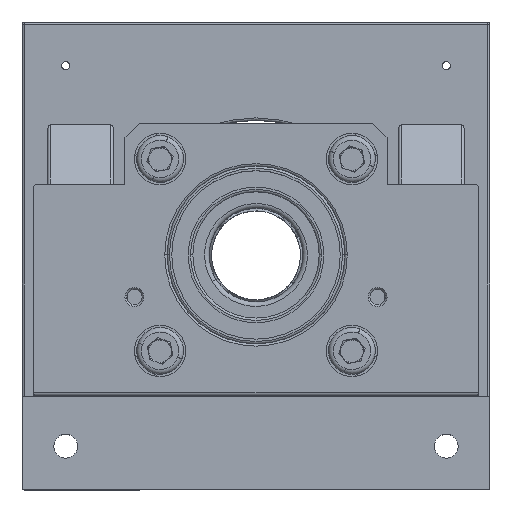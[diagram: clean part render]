
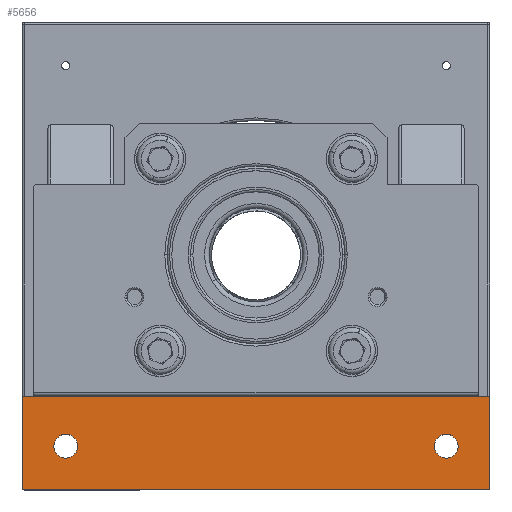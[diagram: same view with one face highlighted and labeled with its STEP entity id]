
A CAD part, top view. The second image highlights one B-rep face of the part: STEP entity #5656.
In plain terms, the highlighted planar face has unit normal (0, 0, 1).
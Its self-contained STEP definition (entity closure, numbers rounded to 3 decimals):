
#146 = LINE ( 'NONE', #9926, #9322 ) ;
#231 = FACE_BOUND ( 'NONE', #9651, .T. ) ;
#425 = DIRECTION ( 'NONE',  ( -1., 0., 0. ) ) ;
#438 = EDGE_CURVE ( 'NONE', #1073, #10733, #9137, .T. ) ;
#450 = CIRCLE ( 'NONE', #5494, 0.5 ) ;
#517 = LINE ( 'NONE', #6988, #7633 ) ;
#672 = DIRECTION ( 'NONE',  ( -1., 0., 0. ) ) ;
#749 = CARTESIAN_POINT ( 'NONE',  ( -43.209, -40.659, -115. ) ) ;
#849 = CIRCLE ( 'NONE', #5054, 0.5 ) ;
#959 = CARTESIAN_POINT ( 'NONE',  ( 50., -49.5, -115. ) ) ;
#1016 = CARTESIAN_POINT ( 'NONE',  ( -50., -49.5, -115. ) ) ;
#1073 = VERTEX_POINT ( 'NONE', #2430 ) ;
#1091 = ORIENTED_EDGE ( 'NONE', *, *, #3273, .F. ) ;
#1469 = DIRECTION ( 'NONE',  ( 0., 0., 1. ) ) ;
#2068 = VECTOR ( 'NONE', #9463, 1000. ) ;
#2427 = EDGE_CURVE ( 'NONE', #7229, #5574, #517, .T. ) ;
#2430 = CARTESIAN_POINT ( 'NONE',  ( -50., -30., -115. ) ) ;
#2439 = CIRCLE ( 'NONE', #7302, 2.55 ) ;
#2751 = DIRECTION ( 'NONE',  ( 0., 0., 1. ) ) ;
#2798 = CARTESIAN_POINT ( 'NONE',  ( 38.109, -40.659, -115. ) ) ;
#2816 = LINE ( 'NONE', #5317, #9843 ) ;
#2919 = ORIENTED_EDGE ( 'NONE', *, *, #11177, .T. ) ;
#3029 = ORIENTED_EDGE ( 'NONE', *, *, #8271, .F. ) ;
#3273 = EDGE_CURVE ( 'NONE', #9128, #10308, #2439, .T. ) ;
#3429 = EDGE_LOOP ( 'NONE', ( #1091, #9002 ) ) ;
#3490 = CARTESIAN_POINT ( 'NONE',  ( -38.109, -40.659, -115. ) ) ;
#4058 = CIRCLE ( 'NONE', #11083, 2.55 ) ;
#4710 = DIRECTION ( 'NONE',  ( 0., 1., 0. ) ) ;
#4714 = EDGE_CURVE ( 'NONE', #7144, #1073, #2816, .T. ) ;
#4905 = CARTESIAN_POINT ( 'NONE',  ( -40.659, -40.659, -115. ) ) ;
#5041 = DIRECTION ( 'NONE',  ( -1., 0., 0. ) ) ;
#5054 = AXIS2_PLACEMENT_3D ( 'NONE', #6825, #1469, #7720 ) ;
#5224 = DIRECTION ( 'NONE',  ( 0., 1., 0. ) ) ;
#5275 = DIRECTION ( 'NONE',  ( 0., 0., 1. ) ) ;
#5292 = FACE_OUTER_BOUND ( 'NONE', #11118, .T. ) ;
#5304 = CARTESIAN_POINT ( 'NONE',  ( 40.659, -40.659, -115. ) ) ;
#5317 = CARTESIAN_POINT ( 'NONE',  ( -50., -30., -115. ) ) ;
#5494 = AXIS2_PLACEMENT_3D ( 'NONE', #8114, #2751, #8971 ) ;
#5574 = VERTEX_POINT ( 'NONE', #10112 ) ;
#5656 = ADVANCED_FACE ( 'NONE', ( #5292, #7373, #231 ), #7096, .F. ) ;
#5734 = ORIENTED_EDGE ( 'NONE', *, *, #10413, .T. ) ;
#5769 = DIRECTION ( 'NONE',  ( 0., 0., 1. ) ) ;
#5797 = DIRECTION ( 'NONE',  ( -1., 0., 0. ) ) ;
#6011 = DIRECTION ( 'NONE',  ( 0., 0., 1. ) ) ;
#6013 = CARTESIAN_POINT ( 'NONE',  ( 50., -30., -115. ) ) ;
#6024 = ORIENTED_EDGE ( 'NONE', *, *, #438, .F. ) ;
#6140 = CARTESIAN_POINT ( 'NONE',  ( 43.209, -40.659, -115. ) ) ;
#6466 = CARTESIAN_POINT ( 'NONE',  ( -49.5, -50., -115. ) ) ;
#6492 = AXIS2_PLACEMENT_3D ( 'NONE', #6757, #6721, #6520 ) ;
#6520 = DIRECTION ( 'NONE',  ( -1., 0., 0. ) ) ;
#6689 = VERTEX_POINT ( 'NONE', #959 ) ;
#6718 = ORIENTED_EDGE ( 'NONE', *, *, #9987, .T. ) ;
#6721 = DIRECTION ( 'NONE',  ( 0., 0., -1. ) ) ;
#6757 = CARTESIAN_POINT ( 'NONE',  ( -50., -30., -115. ) ) ;
#6776 = DIRECTION ( 'NONE',  ( 1., 0., 0. ) ) ;
#6825 = CARTESIAN_POINT ( 'NONE',  ( 49.5, -49.5, -115. ) ) ;
#6988 = CARTESIAN_POINT ( 'NONE',  ( -50., -50., -115. ) ) ;
#7095 = ORIENTED_EDGE ( 'NONE', *, *, #4714, .F. ) ;
#7096 = PLANE ( 'NONE',  #6492 ) ;
#7144 = VERTEX_POINT ( 'NONE', #1016 ) ;
#7185 = AXIS2_PLACEMENT_3D ( 'NONE', #4905, #10980, #5797 ) ;
#7229 = VERTEX_POINT ( 'NONE', #6466 ) ;
#7302 = AXIS2_PLACEMENT_3D ( 'NONE', #5304, #5275, #5041 ) ;
#7373 = FACE_BOUND ( 'NONE', #3429, .T. ) ;
#7545 = EDGE_CURVE ( 'NONE', #8376, #9235, #8577, .T. ) ;
#7633 = VECTOR ( 'NONE', #6776, 1000. ) ;
#7720 = DIRECTION ( 'NONE',  ( -1., 0., 0. ) ) ;
#8114 = CARTESIAN_POINT ( 'NONE',  ( -49.5, -49.5, -115. ) ) ;
#8271 = EDGE_CURVE ( 'NONE', #9235, #8376, #9218, .T. ) ;
#8376 = VERTEX_POINT ( 'NONE', #3490 ) ;
#8577 = CIRCLE ( 'NONE', #7185, 2.55 ) ;
#8868 = CARTESIAN_POINT ( 'NONE',  ( -50., -30., -115. ) ) ;
#8971 = DIRECTION ( 'NONE',  ( -1., 0., 0. ) ) ;
#9002 = ORIENTED_EDGE ( 'NONE', *, *, #11055, .F. ) ;
#9128 = VERTEX_POINT ( 'NONE', #2798 ) ;
#9137 = LINE ( 'NONE', #8868, #2068 ) ;
#9218 = CIRCLE ( 'NONE', #11140, 2.55 ) ;
#9235 = VERTEX_POINT ( 'NONE', #749 ) ;
#9322 = VECTOR ( 'NONE', #4710, 1000. ) ;
#9463 = DIRECTION ( 'NONE',  ( 1., 0., 0. ) ) ;
#9651 = EDGE_LOOP ( 'NONE', ( #3029, #10580 ) ) ;
#9843 = VECTOR ( 'NONE', #5224, 1000. ) ;
#9926 = CARTESIAN_POINT ( 'NONE',  ( 50., -30., -115. ) ) ;
#9987 = EDGE_CURVE ( 'NONE', #6689, #10733, #146, .T. ) ;
#10112 = CARTESIAN_POINT ( 'NONE',  ( 49.5, -50., -115. ) ) ;
#10308 = VERTEX_POINT ( 'NONE', #6140 ) ;
#10413 = EDGE_CURVE ( 'NONE', #7144, #7229, #450, .T. ) ;
#10580 = ORIENTED_EDGE ( 'NONE', *, *, #7545, .F. ) ;
#10733 = VERTEX_POINT ( 'NONE', #6013 ) ;
#10951 = CARTESIAN_POINT ( 'NONE',  ( 40.659, -40.659, -115. ) ) ;
#10980 = DIRECTION ( 'NONE',  ( 0., 0., 1. ) ) ;
#11055 = EDGE_CURVE ( 'NONE', #10308, #9128, #4058, .T. ) ;
#11083 = AXIS2_PLACEMENT_3D ( 'NONE', #10951, #5769, #425 ) ;
#11118 = EDGE_LOOP ( 'NONE', ( #5734, #11162, #2919, #6718, #6024, #7095 ) ) ;
#11140 = AXIS2_PLACEMENT_3D ( 'NONE', #11186, #6011, #672 ) ;
#11162 = ORIENTED_EDGE ( 'NONE', *, *, #2427, .T. ) ;
#11177 = EDGE_CURVE ( 'NONE', #5574, #6689, #849, .T. ) ;
#11186 = CARTESIAN_POINT ( 'NONE',  ( -40.659, -40.659, -115. ) ) ;
